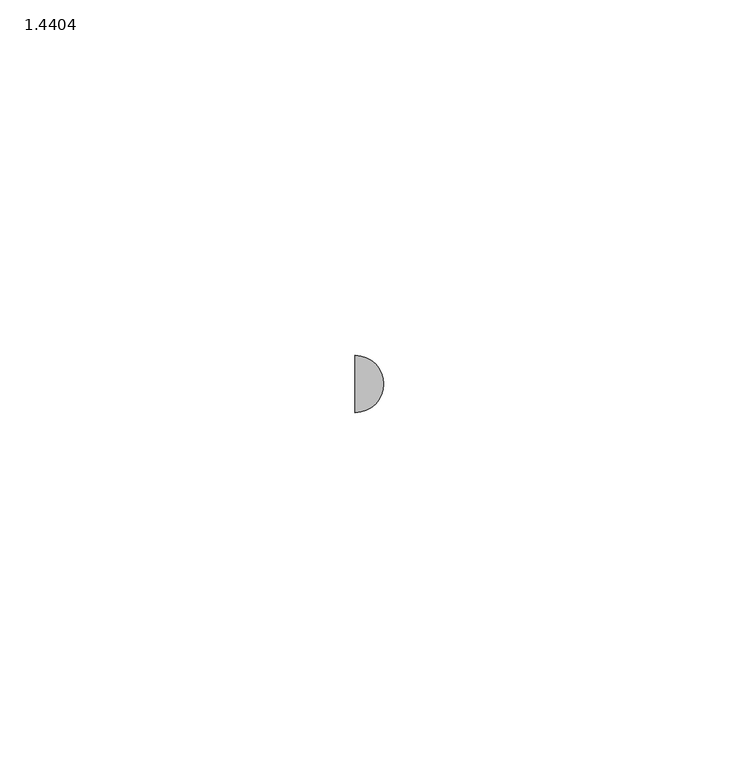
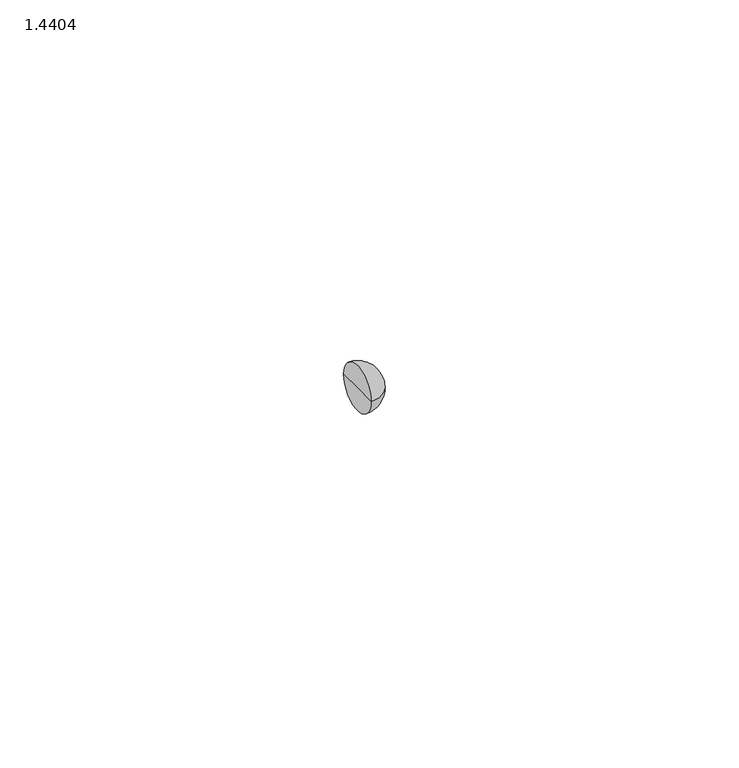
"""IFC4 building model written with IfcOpenShell, lengths in millimetres: pipe fitting geometry, PIF_ST_UN_ACO pipe multibranch_ACO : 1.4404."""

from ifc_helpers import new_model, si_unit, point, frame, origin, place, context, project, spatial, circle_curve, ellipse_curve, trimmed, source, transform, mapped, element, save
from ifc_brep_helpers import plane_surface, revolved_surface, advanced_brep


def pipe_fitting_1_4404_7859ca27(model_context):
    return source(origin(), model_context, "Body", "AdvancedBrep", [
        advanced_brep(
        [(-88.0, 0.0, 0.0), (-88.0, 4.0095617, 0.0), (-88.0, -4.0095617, 0.0), (-83.9904383, 0.0, 0.0)],
        [
            (0, 1),
            (1, 2, circle_curve(frame((-88.0, 0.0, 0.0), z_axis=(-1.0, 0.0, 0.0), x_axis=(0.0, 1.0, 0.0)), 4.0095617)),
            (2, 0),
            (2, 1, circle_curve(frame((-88.0, 0.0, 0.0), z_axis=(-1.0, 0.0, 0.0), x_axis=(0.0, 1.0, 0.0)), 4.0095617)),
            (1, 3, circle_curve(frame((-88.0, 0.0, 0.0), z_axis=(0.0, 0.0, -1.0), x_axis=(1.0, 0.0, 0.0)), 4.0095617)),
            (3, 2, circle_curve(frame((-88.0, 0.0, 0.0), z_axis=(0.0, 0.0, -1.0), x_axis=(1.0, 0.0, 0.0)), 4.0095617)),
        ],
        [
            plane_surface(frame((-88.0, 0.0, 0.0), z_axis=(-1.0, 0.0, 0.0), x_axis=(0.0, 1.0, 0.0))),
            revolved_surface(trimmed(ellipse_curve(frame((-88.0, 0.0, 0.0), z_axis=(0.0, 0.0, 1.0), x_axis=(1.0, 0.0, 0.0)), 4.0095617, 4.0095617), [point((-83.9904383, 0.0, 0.0))], [point((-88.0, 4.0095617, 0.0))], True, "CARTESIAN"), (-88.0, 0.0, 0.0), (-1.0, 0.0, 0.0)),
        ],
        [
            (0, [[1, 2, 3]]),
            (0, [[-3, 4, -1]]),
            (1, [[-2, 5, 6]]),
            (1, [[-4, -6, -5]]),
        ],
    ),
    ])


if __name__ == "__main__":
    model = new_model("IFC4")
    model_context = context("Model", 3, world=origin())
    ifc_project = project(units=[si_unit("LENGTHUNIT", "METRE", prefix="MILLI")], contexts=[model_context])
    site = spatial("IfcSite", under=ifc_project)
    building = spatial("IfcBuilding", under=site)
    placement = place(None, origin())
    pipe_fitting_1_4404_shape = pipe_fitting_1_4404_7859ca27(model_context)
    element("IfcPipeFitting", 1, ObjectType="PIF_ST_UN_ACO pipe multibranch_ACO : 1.4404", at=placement, inside=building, context=model_context, shape_type="MappedRepresentation", body=[
        mapped(pipe_fitting_1_4404_shape, transform((0.0, 0.0, 0.0), x_axis=(1.0, 0.0, 0.0), y_axis=(0.0, 1.0, 0.0), z_axis=(0.0, 0.0, 1.0))),
    ])
    save(model, "model.ifc")
